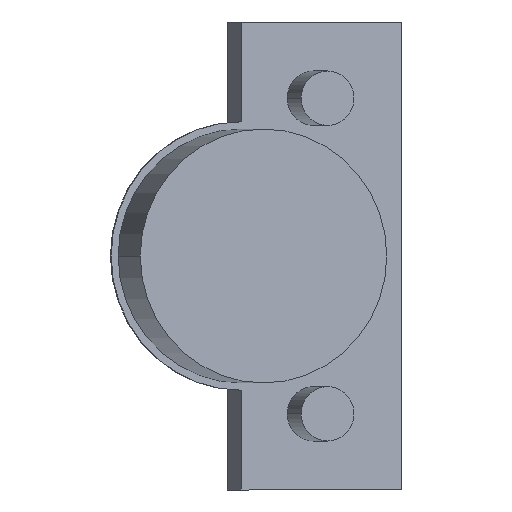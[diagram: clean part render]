
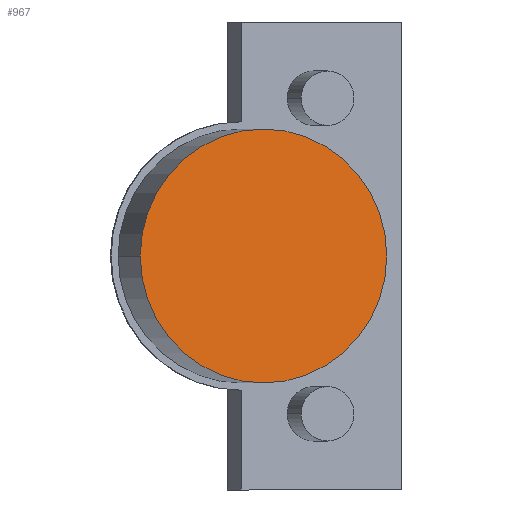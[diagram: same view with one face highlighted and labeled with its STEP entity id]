
A CAD part, front view. The second image highlights one B-rep face of the part: STEP entity #967.
In plain terms, the highlighted planar face has unit normal (0.242, -0.97, 0).
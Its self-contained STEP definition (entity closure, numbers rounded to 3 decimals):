
#66 = EDGE_CURVE ( 'NONE', #238, #253, #1480, .T. ) ;
#119 = EDGE_CURVE ( 'NONE', #253, #238, #1565, .T. ) ;
#137 = AXIS2_PLACEMENT_3D ( 'NONE', #442, #446, #447 ) ;
#160 = AXIS2_PLACEMENT_3D ( 'NONE', #566, #572, #573 ) ;
#202 = AXIS2_PLACEMENT_3D ( 'NONE', #808, #814, #815 ) ;
#238 = VERTEX_POINT ( 'NONE', #620 ) ;
#253 = VERTEX_POINT ( 'NONE', #634 ) ;
#442 = CARTESIAN_POINT ( 'NONE',  ( 10.048, -12.226, 0. ) ) ;
#446 = DIRECTION ( 'NONE',  ( 0.242, -0.97, 0. ) ) ;
#447 = DIRECTION ( 'NONE',  ( 0.97, 0.242, 0. ) ) ;
#566 = CARTESIAN_POINT ( 'NONE',  ( 10.048, -12.226, 0. ) ) ;
#572 = DIRECTION ( 'NONE',  ( 0.242, -0.97, 0. ) ) ;
#573 = DIRECTION ( 'NONE',  ( 0.97, 0.242, 0. ) ) ;
#620 = CARTESIAN_POINT ( 'NONE',  ( 27.028, -7.992, 0. ) ) ;
#634 = CARTESIAN_POINT ( 'NONE',  ( -6.932, -16.459, 0. ) ) ;
#805 = PLANE ( 'NONE',  #202 ) ;
#808 = CARTESIAN_POINT ( 'NONE',  ( 10.048, -12.226, 0. ) ) ;
#814 = DIRECTION ( 'NONE',  ( 0.242, -0.97, 0. ) ) ;
#815 = DIRECTION ( 'NONE',  ( 0.97, 0.242, 0. ) ) ;
#967 = ADVANCED_FACE ( 'NONE', ( #1635 ), #805, .T. ) ;
#1083 = EDGE_LOOP ( 'NONE', ( #1159, #1160 ) ) ;
#1159 = ORIENTED_EDGE ( 'NONE', *, *, #119, .T. ) ;
#1160 = ORIENTED_EDGE ( 'NONE', *, *, #66, .T. ) ;
#1480 = CIRCLE ( 'NONE', #137, 17.5 ) ;
#1565 = CIRCLE ( 'NONE', #160, 17.5 ) ;
#1635 = FACE_OUTER_BOUND ( 'NONE', #1083, .T. ) ;
